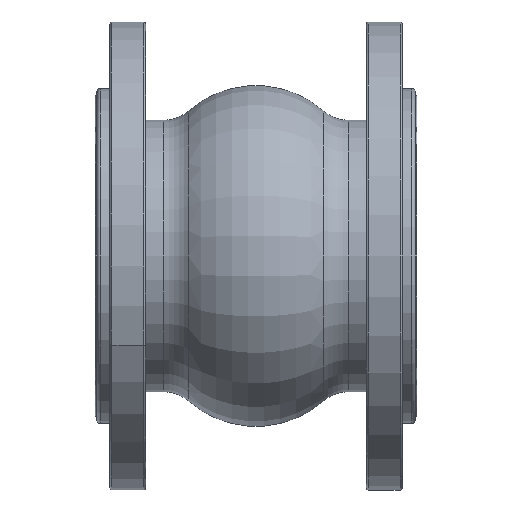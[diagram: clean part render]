
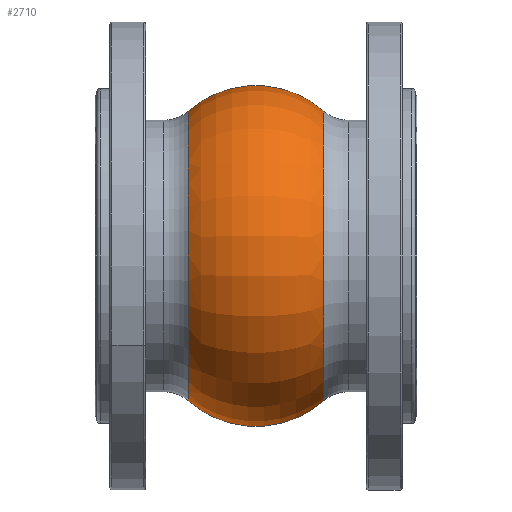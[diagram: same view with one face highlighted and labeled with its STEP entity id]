
A CAD part, front view. The second image highlights one B-rep face of the part: STEP entity #2710.
In plain terms, the highlighted toroidal (fillet/blend) face has major radius 36 mm and minor radius 55 mm.
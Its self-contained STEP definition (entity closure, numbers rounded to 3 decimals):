
#44 = AXIS2_PLACEMENT_3D ( 'NONE', #2600, #719, #2919 ) ;
#108 = ORIENTED_EDGE ( 'NONE', *, *, #2632, .F. ) ;
#221 = DIRECTION ( 'NONE',  ( 0., 0., 1. ) ) ;
#509 = CARTESIAN_POINT ( 'NONE',  ( 0., 0., 36. ) ) ;
#595 = CARTESIAN_POINT ( 'NONE',  ( 36.17, 0., -77.433 ) ) ;
#719 = DIRECTION ( 'NONE',  ( -1., 0., 0. ) ) ;
#794 = DIRECTION ( 'NONE',  ( 0., 0., -1. ) ) ;
#835 = VERTEX_POINT ( 'NONE', #1842 ) ;
#863 = CARTESIAN_POINT ( 'NONE',  ( 0., 0., 0. ) ) ;
#884 = DIRECTION ( 'NONE',  ( 0., 0., 1. ) ) ;
#1411 = CARTESIAN_POINT ( 'NONE',  ( 36.17, 0., 77.433 ) ) ;
#1479 = TOROIDAL_SURFACE ( 'NONE', #3863, 36., 55. ) ;
#1628 = FACE_OUTER_BOUND ( 'NONE', #3195, .T. ) ;
#1656 = VERTEX_POINT ( 'NONE', #2987 ) ;
#1842 = CARTESIAN_POINT ( 'NONE',  ( -36.17, 0., -77.433 ) ) ;
#1862 = EDGE_CURVE ( 'NONE', #835, #1656, #2121, .T. ) ;
#2025 = ORIENTED_EDGE ( 'NONE', *, *, #1862, .F. ) ;
#2055 = DIRECTION ( 'NONE',  ( -1., 0., 0. ) ) ;
#2059 = AXIS2_PLACEMENT_3D ( 'NONE', #509, #2366, #794 ) ;
#2100 = CARTESIAN_POINT ( 'NONE',  ( 36.17, 0., 0. ) ) ;
#2121 = CIRCLE ( 'NONE', #44, 77.433 ) ;
#2147 = CIRCLE ( 'NONE', #2714, 77.433 ) ;
#2153 = DIRECTION ( 'NONE',  ( 0., 0., 1. ) ) ;
#2167 = CIRCLE ( 'NONE', #3253, 55. ) ;
#2366 = DIRECTION ( 'NONE',  ( 0., -1., 0. ) ) ;
#2374 = CIRCLE ( 'NONE', #2059, 55. ) ;
#2441 = DIRECTION ( 'NONE',  ( -1., 0., 0. ) ) ;
#2463 = DIRECTION ( 'NONE',  ( 0., 1., 0. ) ) ;
#2506 = EDGE_CURVE ( 'NONE', #2602, #1656, #2374, .T. ) ;
#2600 = CARTESIAN_POINT ( 'NONE',  ( -36.17, 0., 0. ) ) ;
#2602 = VERTEX_POINT ( 'NONE', #1411 ) ;
#2632 = EDGE_CURVE ( 'NONE', #3857, #835, #2167, .T. ) ;
#2655 = ORIENTED_EDGE ( 'NONE', *, *, #2506, .T. ) ;
#2710 = ADVANCED_FACE ( 'NONE', ( #1628 ), #1479, .T. ) ;
#2714 = AXIS2_PLACEMENT_3D ( 'NONE', #2100, #2055, #221 ) ;
#2919 = DIRECTION ( 'NONE',  ( 0., 0., 1. ) ) ;
#2987 = CARTESIAN_POINT ( 'NONE',  ( -36.17, 0., 77.433 ) ) ;
#3146 = EDGE_CURVE ( 'NONE', #3857, #2602, #2147, .T. ) ;
#3195 = EDGE_LOOP ( 'NONE', ( #108, #3502, #2655, #2025 ) ) ;
#3253 = AXIS2_PLACEMENT_3D ( 'NONE', #4017, #2463, #884 ) ;
#3502 = ORIENTED_EDGE ( 'NONE', *, *, #3146, .T. ) ;
#3857 = VERTEX_POINT ( 'NONE', #595 ) ;
#3863 = AXIS2_PLACEMENT_3D ( 'NONE', #863, #2441, #2153 ) ;
#4017 = CARTESIAN_POINT ( 'NONE',  ( 0., 0., -36. ) ) ;
